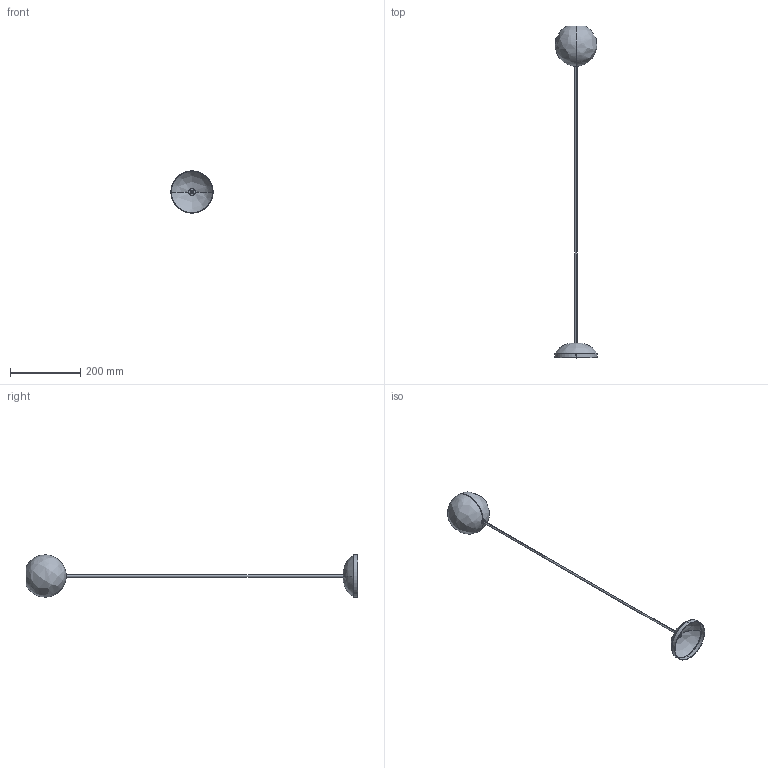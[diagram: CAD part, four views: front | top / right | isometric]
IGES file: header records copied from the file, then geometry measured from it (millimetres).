
Start section: SolidWorks IGES file using analytic representation for surfaces
Global section: file name: C:\Users\ppp\Desktop\Nowodvorski\Modele 3D_lampy\Bubble\3ds\Bubble_oprawa_pojedynczy_wys 85 cm_Gu10.IGS; native system: SolidWorks 2012; preprocessor: SolidWorks 2012; author: ppp; date: 150727.142311; units: millimetre
Bounding box: 120 x 945.02 x 120.29 mm (x, y, z)
Surface area: 153175.9 mm2 (no closed solid volume)
Topology: 0 solids, 0 shells, 90 faces, 1728 edges, 1722 vertices
Faces by surface type: bspline 50, revolution 40
